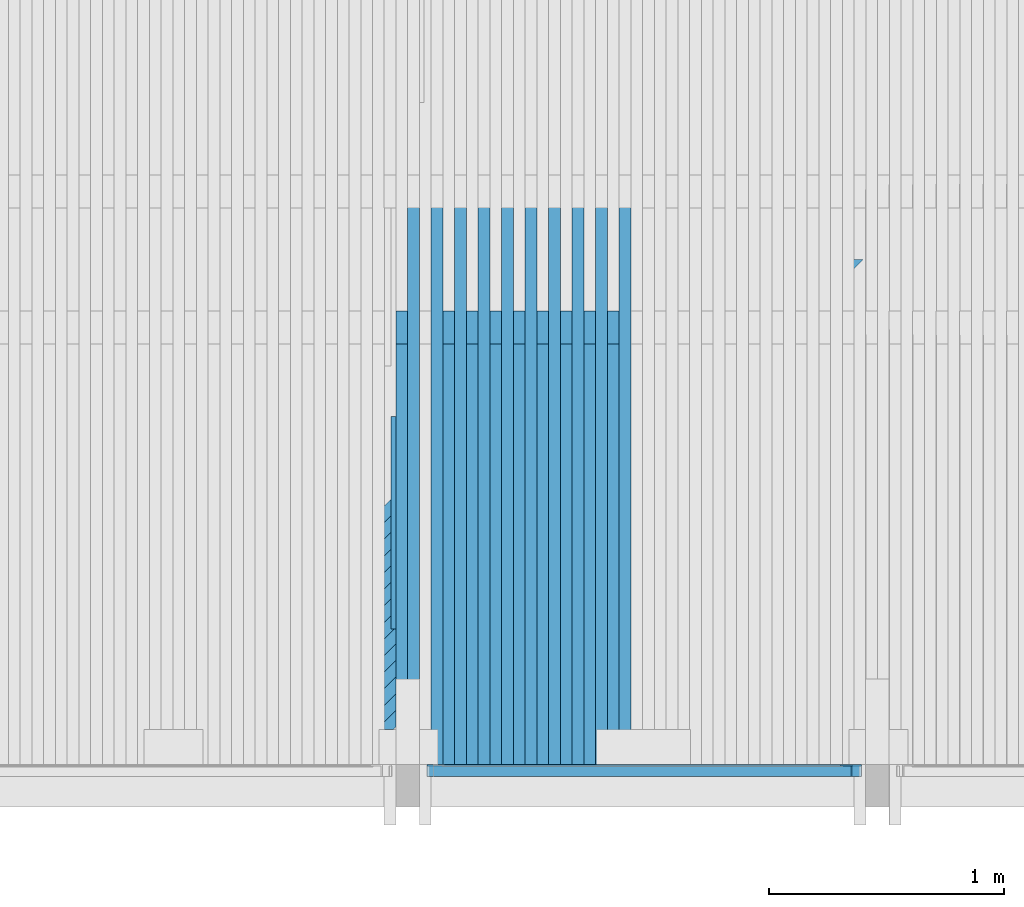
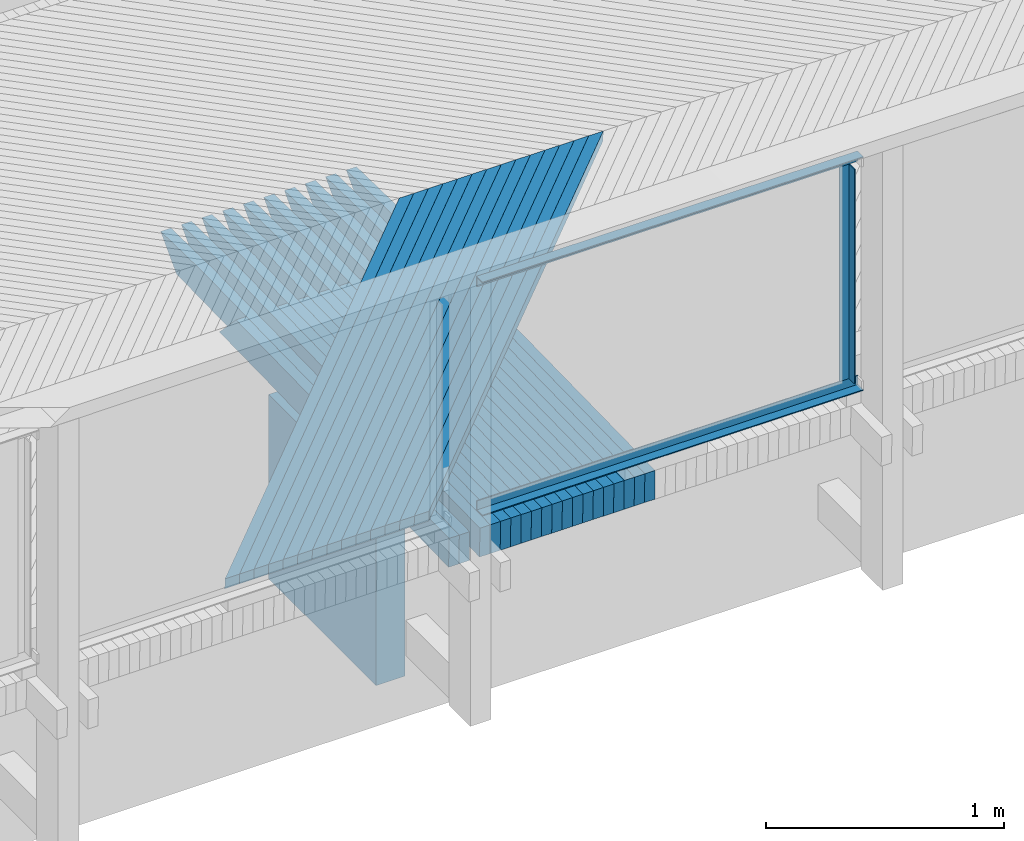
# One storey, part 30 of 65: 37 beams.
"""IFC2X3 building model written with IfcOpenShell, lengths in millimetres."""

from ifc_helpers import new_model, si_unit, frame, origin_with_axes, place, context, subcontext, project, spatial, faceted_brep, material, type_object, element, save


model = new_model("IFC2X3")

# Units and contexts
model_context = context("Model", 3, precision=1e-05, world=origin_with_axes())
body_context = subcontext(model_context, "Body", "Model", "MODEL_VIEW")
ifc_project = project(units=[si_unit("LENGTHUNIT", "METRE", prefix="MILLI"), si_unit("AREAUNIT", "SQUARE_METRE"), si_unit("VOLUMEUNIT", "CUBIC_METRE"), si_unit("MASSUNIT", "GRAM", prefix="KILO"), si_unit("TIMEUNIT", "SECOND"), si_unit("PLANEANGLEUNIT", "RADIAN"), si_unit("SOLIDANGLEUNIT", "STERADIAN"), si_unit("THERMODYNAMICTEMPERATUREUNIT", "DEGREE_CELSIUS"), si_unit("LUMINOUSINTENSITYUNIT", "LUMEN")], contexts=[model_context])

# Site, building, storey
site_placement = place(None, origin_with_axes())
site = spatial("IfcSite", under=ifc_project, at=site_placement, Name="Undefined", CompositionType="ELEMENT")
building_placement = place(site_placement, origin_with_axes())
building = spatial("IfcBuilding", under=site, at=building_placement, Name="Undefined", CompositionType="ELEMENT")
storey_placement = place(building_placement, origin_with_axes())
storey = spatial("IfcBuildingStorey", under=building, at=storey_placement, Name="Undefined", CompositionType="ELEMENT", Elevation=0.0)

# Beams
ifc_material_1 = material(Name="STEEL/S235JR")
beam_type_1 = type_object("IfcBeamType", Name="L50*5", PredefinedType="NOTDEFINED")
beam_1_placement = place(storey_placement, frame((9867.50249484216, 20190.01, 4413.27202277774), z_axis=(0.0, -1.0, 0.0), x_axis=(0.0, 0.0, -1.0)))
element("IfcBeam", 1, at=beam_1_placement, inside=storey, type_object=beam_type_1, material=ifc_material_1, Name="BEAM", ObjectType="L50*5", context=body_context, shape_type="Brep", body=[
    faceted_brep([(0.0, 25.0, -25.0), (0.0, 25.0, 25.0), (1100.00065383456, 25.0, 25.0), (1100.00065383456, 25.0, -25.0), (0.0, 20.0, 25.0), (1100.00065383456, 20.0, 25.0), (0.0, 20.0, -20.0), (1100.00065383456, 20.0, -20.0), (0.0, -25.0, -20.0), (1100.00065383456, -25.0, -20.0), (0.0, -25.0, -25.0), (1100.00065383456, -25.0, -25.0)], [[[0, 1, 2, 3]], [[1, 4, 5, 2]], [[4, 6, 7, 5]], [[6, 8, 9, 7]], [[8, 10, 11, 9]], [[10, 0, 3, 11]], [[5, 7, 9, 11, 3, 2]], [[10, 8, 6, 4, 1, 0]]]),
])
for number, where, z_axis, x_axis, name in (
    (2, (9932.03909659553, 20190.0100000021, 3288.20578105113), (0.0, -1.0, 0.0), (-0.999998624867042, 0.0, 0.00165839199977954), "BEAM"),
    (3, (8082.96221035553, 20190.0099999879, 4441.27297464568), (0.0, -1.0, 0.0), (0.999998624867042, 0.0, -0.00165839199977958), "BEAM"),
):
    element("IfcBeam", number, at=place(storey_placement, frame(where, z_axis=z_axis, x_axis=x_axis)), inside=storey, type_object=beam_type_1, material=ifc_material_1, Name=name, ObjectType="L50*5", context=body_context, shape_type="Brep", body=[
        faceted_brep([(0.0, 25.0, -25.0), (0.0, 25.0, 25.0), (1848.99650923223, 25.0, 25.0), (1848.99650923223, 25.0, -25.0), (0.0, 20.0, 25.0), (1848.99650923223, 20.0, 25.0), (0.0, 20.0, -20.0), (1848.99650923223, 20.0, -20.0), (0.0, -25.0, -20.0), (1848.99650923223, -25.0000000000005, -20.0), (0.0, -25.0, -25.0), (1848.99650923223, -25.0000000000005, -25.0)], [[[0, 1, 2, 3]], [[1, 4, 5, 2]], [[4, 6, 7, 5]], [[6, 8, 9, 7]], [[8, 10, 11, 9]], [[10, 0, 3, 11]], [[5, 7, 9, 11, 3, 2]], [[10, 8, 6, 4, 1, 0]]]),
    ])
ifc_material_2 = material(Name="TIMBER/Timber_Undefined")
beam_type_2 = type_object("IfcBeamType", Name="945*140", PredefinedType="NOTDEFINED")
beam_2_placement = place(storey_placement, frame((8000.0, 21697.5, 2542.6979002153), z_axis=(0.0, 0.0, 1.0), x_axis=(0.0, -1.0, 0.0)))
element("IfcBeam", 4, at=beam_2_placement, inside=storey, type_object=beam_type_2, material=ifc_material_2, Name="PALKKI", ObjectType="945*140", context=body_context, shape_type="Brep", body=[
    faceted_brep([(0.0, 70.0, -472.5), (0.0, 70.0, 472.5), (905.0, 70.0, 472.5), (905.0, 70.0, -472.5), (0.0, -70.0, 472.5), (905.0, -70.0, 472.5), (0.0, -70.0, -472.5), (905.0, -70.0, -472.5)], [[[0, 1, 2, 3]], [[1, 4, 5, 2]], [[4, 6, 7, 5]], [[6, 0, 3, 7]], [[5, 7, 3, 2]], [[6, 4, 1, 0]]]),
])
beam_type_3 = type_object("IfcBeamType", Name="50*50", PredefinedType="NOTDEFINED")
for number, where, z_axis, x_axis, name in (
    (5, (9903.90922166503, 22364.5001003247, 3233.11191274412), (0.707070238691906, -0.706981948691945, -0.0151063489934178), (-0.70714200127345, -0.706948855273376, -0.0131721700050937), "BEAM"),
    (6, (9833.18532878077, 22364.5001003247, 3233.33139353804), (0.707072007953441, -0.706981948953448, -0.0150232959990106), (-0.707140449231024, -0.706948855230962, -0.0132552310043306), "BEAM"),
    (7, (9762.46141060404, 22364.5001003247, 3233.54256705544), (0.707073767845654, -0.706981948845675, -0.0149402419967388), (-0.707138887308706, -0.706948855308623, -0.0133382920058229), "BEAM"),
    (8, (9691.73746811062, 22364.5001003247, 3233.7454332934), (0.707075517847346, -0.706981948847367, -0.0148571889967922), (-0.707137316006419, -0.706948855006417, -0.0134213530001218), "BEAM"),
    (9, (9621.01350227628, 22364.5001003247, 3233.93999224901), (0.707077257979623, -0.706981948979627, -0.0147741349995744), (-0.707135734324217, -0.706948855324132, -0.0135044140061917), "BEAM"),
    (10, (9550.28951407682, 22364.5001003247, 3234.12624391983), (0.707078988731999, -0.706981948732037, -0.0146910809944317), (-0.70713414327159, -0.706948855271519, -0.0135874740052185), "BEAM"),
    (11, (9479.565504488, 22364.5001003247, 3234.30418830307), (0.70708070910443, -0.706981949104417, -0.0146080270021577), (-0.70713254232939, -0.706948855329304, -0.0136705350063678), "BEAM"),
    (12, (9408.8414744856, 22364.5001003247, 3234.4738253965), (0.707082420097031, -0.706981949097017, -0.0145249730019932), (-0.707130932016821, -0.706948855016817, -0.0137535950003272), "BEAM"),
    (13, (9338.11742504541, 22364.5001003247, 3234.63515519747), (0.707084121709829, -0.706981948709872, -0.0144419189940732), (-0.707129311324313, -0.70694885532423, -0.0138366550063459), "BEAM"),
    (14, (9267.39335714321, 22364.5001003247, 3234.78817770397), (0.70708581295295, -0.706981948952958, -0.0143588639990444), (-0.707127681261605, -0.706948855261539, -0.0139197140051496), "BEAM"),
    (15, (9196.66927175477, 22364.5001003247, 3234.93289291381), (0.707087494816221, -0.70698194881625, -0.0142758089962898), (-0.707126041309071, -0.706948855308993, -0.0140027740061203), "BEAM"),
    (16, (9125.94516985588, 22364.5001003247, 3235.06930082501), (0.707089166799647, -0.706981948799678, -0.0141927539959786), (-0.707124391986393, -0.706948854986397, -0.0140858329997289), "BEAM"),
    (17, (9055.22105242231, 22364.5001003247, 3235.1974014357), (0.707090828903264, -0.706981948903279, -0.0141096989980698), (-0.707122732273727, -0.70694885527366, -0.0141688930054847), "BEAM"),
    (18, (8984.49692042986, 22364.5001003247, 3235.31719474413), (0.707092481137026, -0.706981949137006, -0.0140266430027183), (-0.707121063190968, -0.706948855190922, -0.014251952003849), "BEAM"),
):
    element("IfcBeam", number, at=place(storey_placement, frame(where, z_axis=z_axis, x_axis=x_axis)), inside=storey, type_object=beam_type_3, material=ifc_material_2, Name=name, ObjectType="50*50", context=body_context, shape_type="Brep", body=[
        faceted_brep([(24.8942457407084, 25.0000000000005, -25.0000000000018), (-25.0086637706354, 24.9999999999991, 25.0), (2804.3406783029, 25.0, 25.0000000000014), (2854.34301907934, 24.9999999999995, -25.0), (-26.4222658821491, -25.0000000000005, 25.0), (2802.92643296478, -25.0, 25.0000000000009), (23.4806436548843, -24.9999999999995, -25.0000000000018), (2852.92877373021, -25.0000000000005, -24.9999999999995)], [[[0, 1, 2, 3]], [[1, 4, 5, 2]], [[4, 6, 7, 5]], [[6, 0, 3, 7]], [[5, 7, 3, 2]], [[6, 4, 1, 0]]]),
    ])
beam_type_4 = type_object("IfcBeamType", Name="150*50", PredefinedType="NOTDEFINED")
beam_3_placement = place(storey_placement, frame((8875.35105555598, 20216.5046076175, 3092.51355357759), z_axis=(0.00137347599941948, -0.0199960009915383, 0.999799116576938), x_axis=(2.74690000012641e-05, 0.999800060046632, 0.0199959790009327)))
element("IfcBeam", 19, at=beam_3_placement, inside=storey, type_object=beam_type_4, material=ifc_material_2, Name="BEAM", ObjectType="150*50", context=body_context, shape_type="Brep", body=[
    faceted_brep([(-1.6778358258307e-07, -24.9999999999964, -74.9999999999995), (1.67790858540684e-07, -24.9999999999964, 75.0000000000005), (1.67790858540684e-07, 25.0000000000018, 74.9999999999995), (-1.6778358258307e-07, 25.0000000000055, -75.0), (1928.42646353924, -25.0, -75.0000000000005), (1789.96936433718, -25.0000000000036, 74.9999999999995), (1789.96936408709, 24.9999999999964, 75.0), (1928.42646328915, 24.9999999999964, -75.0)], [[[0, 1, 2, 3]], [[1, 0, 4, 5]], [[2, 1, 5, 6]], [[3, 2, 6, 7]], [[0, 3, 7, 4]], [[7, 6, 5, 4]]]),
])
beam_4_placement = place(storey_placement, frame((8925.37102920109, 20216.5046076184, 3092.43652922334), z_axis=(0.00153959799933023, -0.0199960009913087, 0.999798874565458), x_axis=(3.0791000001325e-05, 0.999800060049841, 0.0199959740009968)))
element("IfcBeam", 20, at=beam_4_placement, inside=storey, type_object=beam_type_4, material=ifc_material_2, Name="BEAM", ObjectType="150*50", context=body_context, shape_type="Brep", body=[
    faceted_brep([(-1.6778358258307e-07, -24.9999999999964, -74.9999999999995), (1.67790858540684e-07, -24.9999999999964, 75.0000000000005), (1.67790858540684e-07, 25.0000000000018, 74.9999999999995), (-1.6778358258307e-07, 25.0000000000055, -75.0), (2375.00494422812, 25.0000000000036, -75.0), (2375.00494447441, -24.9999999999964, -74.9999999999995), (2510.59248714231, -24.9999999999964, 60.5875430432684), (2150.42520082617, -25.0000000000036, 75.0000000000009), (2150.42515052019, 25.0000000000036, 74.9999999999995), (2510.59248715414, 25.0000000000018, 60.5875433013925)], [[[0, 1, 2, 3]], [[0, 3, 4, 5]], [[1, 0, 5, 6, 7]], [[2, 1, 7, 8]], [[4, 3, 2, 8, 9]], [[5, 4, 9, 6]], [[8, 7, 6, 9]]]),
])
beam_5_placement = place(storey_placement, frame((8775.33111583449, 20216.5046076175, 3092.65068841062), z_axis=(0.00120735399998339, -0.0199960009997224, 0.999799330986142), x_axis=(2.41470000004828e-05, 0.999800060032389, 0.0199959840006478)))
element("IfcBeam", 21, at=beam_5_placement, inside=storey, type_object=beam_type_4, material=ifc_material_2, Name="BEAM", ObjectType="150*50", context=body_context, shape_type="Brep", body=[
    faceted_brep([(-1.6778358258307e-07, -24.9999999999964, -74.9999999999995), (1.67790858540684e-07, -24.9999999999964, 75.0000000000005), (1.67790858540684e-07, 25.0000000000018, 74.9999999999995), (-1.6778358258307e-07, 25.0000000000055, -75.0), (1928.42646353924, -25.0, -75.0000000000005), (1789.96936433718, -25.0000000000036, 74.9999999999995), (1789.96936408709, 24.9999999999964, 75.0), (1928.42646328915, 24.9999999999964, -75.0)], [[[0, 1, 2, 3]], [[1, 0, 4, 5]], [[2, 1, 5, 6]], [[3, 2, 6, 7]], [[0, 3, 7, 4]], [[7, 6, 5, 4]]]),
])
beam_6_placement = place(storey_placement, frame((8825.35110158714, 20216.5046076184, 3092.5819751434), z_axis=(0.00137347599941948, -0.0199960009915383, 0.999799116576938), x_axis=(2.74690000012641e-05, 0.999800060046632, 0.0199959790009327)))
element("IfcBeam", 22, at=beam_6_placement, inside=storey, type_object=beam_type_4, material=ifc_material_2, Name="BEAM", ObjectType="150*50", context=body_context, shape_type="Brep", body=[
    faceted_brep([(-1.6778358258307e-07, -24.9999999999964, -74.9999999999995), (1.67790858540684e-07, -24.9999999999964, 75.0000000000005), (1.67790858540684e-07, 25.0000000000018, 74.9999999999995), (-1.6778358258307e-07, 25.0000000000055, -75.0), (2375.00494422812, 25.0000000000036, -75.0), (2375.00494447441, -24.9999999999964, -74.9999999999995), (2510.59248714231, -24.9999999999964, 60.5875430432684), (2150.42514405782, -24.9999999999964, 75.0000000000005), (2150.42515052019, 25.0000000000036, 74.9999999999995), (2510.59248715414, 25.0000000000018, 60.5875433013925)], [[[0, 1, 2, 3]], [[0, 3, 4, 5]], [[1, 0, 5, 6, 7]], [[2, 1, 7, 8]], [[4, 3, 2, 8, 9]], [[5, 4, 9, 6]], [[6, 9, 8, 7]]]),
])
beam_7_placement = place(storey_placement, frame((8675.31115470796, 20216.5046076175, 3092.77120439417), z_axis=(0.00104123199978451, -0.0199960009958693, 0.99979951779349), x_axis=(2.08240000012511e-05, 0.999800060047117, 0.0199959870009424)))
element("IfcBeam", 23, at=beam_7_placement, inside=storey, type_object=beam_type_4, material=ifc_material_2, Name="BEAM", ObjectType="150*50", context=body_context, shape_type="Brep", body=[
    faceted_brep([(-1.6778358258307e-07, -24.9999999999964, -74.9999999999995), (1.67790858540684e-07, -24.9999999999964, 75.0000000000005), (1.67790858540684e-07, 25.0000000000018, 74.9999999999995), (-1.6778358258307e-07, 25.0000000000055, -75.0), (1928.42646353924, -25.0, -75.0000000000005), (1789.96936433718, -25.0000000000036, 74.9999999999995), (1789.96936408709, 24.9999999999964, 75.0), (1928.42646328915, 24.9999999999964, -75.0)], [[[0, 1, 2, 3]], [[1, 0, 4, 5]], [[2, 1, 5, 6]], [[3, 2, 6, 7]], [[0, 3, 7, 4]], [[7, 6, 5, 4]]]),
])
beam_8_placement = place(storey_placement, frame((8725.33115118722, 20216.5046076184, 3092.71080221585), z_axis=(0.00120735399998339, -0.0199960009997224, 0.999799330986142), x_axis=(2.41470000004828e-05, 0.999800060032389, 0.0199959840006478)))
element("IfcBeam", 24, at=beam_8_placement, inside=storey, type_object=beam_type_4, material=ifc_material_2, Name="BEAM", ObjectType="150*50", context=body_context, shape_type="Brep", body=[
    faceted_brep([(-1.6778358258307e-07, -24.9999999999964, -74.9999999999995), (1.67790858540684e-07, -24.9999999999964, 75.0000000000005), (1.67790858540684e-07, 25.0000000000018, 74.9999999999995), (-1.6778358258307e-07, 25.0000000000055, -75.0), (2375.00494422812, 25.0000000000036, -75.0), (2375.00494447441, -24.9999999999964, -74.9999999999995), (2510.59248714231, -24.9999999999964, 60.5875430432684), (2150.42520082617, -25.0000000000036, 75.0000000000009), (2150.42515052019, 25.0000000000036, 74.9999999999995), (2510.59248715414, 25.0000000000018, 60.5875433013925)], [[[0, 1, 2, 3]], [[0, 3, 4, 5]], [[1, 0, 5, 6, 7]], [[2, 1, 7, 8]], [[4, 3, 2, 8, 9]], [[5, 4, 9, 6]], [[8, 7, 6, 9]]]),
])
beam_9_placement = place(storey_placement, frame((8575.29117493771, 20216.5046076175, 3092.8751015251), z_axis=(0.00087510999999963, -0.0199960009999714, 0.999799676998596), x_axis=(1.75020000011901e-05, 0.999800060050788, 0.0199959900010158)))
element("IfcBeam", 25, at=beam_9_placement, inside=storey, type_object=beam_type_4, material=ifc_material_2, Name="BEAM", ObjectType="150*50", context=body_context, shape_type="Brep", body=[
    faceted_brep([(-1.6778358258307e-07, -24.9999999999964, -74.9999999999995), (1.67790858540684e-07, -24.9999999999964, 75.0000000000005), (1.67790858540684e-07, 25.0000000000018, 74.9999999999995), (-1.6778358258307e-07, 25.0000000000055, -75.0), (1928.42646353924, -25.0, -75.0000000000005), (1789.96936433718, -25.0000000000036, 74.9999999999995), (1789.96936408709, 24.9999999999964, 75.0), (1928.42646328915, 24.9999999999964, -75.0)], [[[0, 1, 2, 3]], [[1, 0, 4, 5]], [[2, 1, 5, 6]], [[3, 2, 6, 7]], [[0, 3, 7, 4]], [[7, 6, 5, 4]]]),
])
beam_10_placement = place(storey_placement, frame((8625.31118076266, 20216.5046076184, 3092.82301043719), z_axis=(0.00104123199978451, -0.0199960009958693, 0.99979951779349), x_axis=(2.08240000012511e-05, 0.999800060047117, 0.0199959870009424)))
element("IfcBeam", 26, at=beam_10_placement, inside=storey, type_object=beam_type_4, material=ifc_material_2, Name="BEAM", ObjectType="150*50", context=body_context, shape_type="Brep", body=[
    faceted_brep([(-1.6778358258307e-07, -24.9999999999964, -74.9999999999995), (1.67790858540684e-07, -24.9999999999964, 75.0000000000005), (1.67790858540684e-07, 25.0000000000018, 74.9999999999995), (-1.6778358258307e-07, 25.0000000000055, -75.0), (2375.00494422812, 25.0000000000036, -75.0), (2375.00494447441, -24.9999999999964, -74.9999999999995), (2510.59248714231, -24.9999999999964, 60.5875430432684), (2150.42514405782, -24.9999999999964, 75.0000000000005), (2150.42515052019, 25.0000000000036, 74.9999999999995), (2510.59248715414, 25.0000000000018, 60.5875433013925)], [[[0, 1, 2, 3]], [[0, 3, 4, 5]], [[1, 0, 5, 6, 7]], [[2, 1, 7, 8]], [[4, 3, 2, 8, 9]], [[5, 4, 9, 6]], [[6, 9, 8, 7]]]),
])
beam_11_placement = place(storey_placement, frame((8475.27117928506, 20216.5046076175, 3092.96237980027), z_axis=(0.000708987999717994, -0.019996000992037, 0.999799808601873), x_axis=(1.41790000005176e-05, 0.999800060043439, 0.0199959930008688)))
element("IfcBeam", 27, at=beam_11_placement, inside=storey, type_object=beam_type_4, material=ifc_material_2, Name="BEAM", ObjectType="150*50", context=body_context, shape_type="Brep", body=[
    faceted_brep([(-1.6778358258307e-07, -24.9999999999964, -74.9999999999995), (1.67790858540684e-07, -24.9999999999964, 75.0000000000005), (1.67790858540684e-07, 25.0000000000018, 74.9999999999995), (-1.6778358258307e-07, 25.0000000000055, -75.0), (1928.42646353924, -25.0, -75.0000000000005), (1789.96936433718, -25.0000000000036, 74.9999999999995), (1789.96936408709, 24.9999999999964, 75.0), (1928.42646328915, 24.9999999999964, -75.0)], [[[0, 1, 2, 3]], [[1, 0, 4, 5]], [[2, 1, 5, 6]], [[3, 2, 6, 7]], [[0, 3, 7, 4]], [[7, 6, 5, 4]]]),
])
beam_12_placement = place(storey_placement, frame((8525.29119307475, 20216.5046076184, 3092.91859980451), z_axis=(0.00087510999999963, -0.0199960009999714, 0.999799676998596), x_axis=(1.75020000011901e-05, 0.999800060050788, 0.0199959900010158)))
element("IfcBeam", 28, at=beam_12_placement, inside=storey, type_object=beam_type_4, material=ifc_material_2, Name="BEAM", ObjectType="150*50", context=body_context, shape_type="Brep", body=[
    faceted_brep([(-1.6778358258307e-07, -24.9999999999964, -74.9999999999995), (1.67790858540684e-07, -24.9999999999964, 75.0000000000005), (1.67790858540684e-07, 25.0000000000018, 74.9999999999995), (-1.6778358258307e-07, 25.0000000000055, -75.0), (2375.00494422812, 25.0000000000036, -75.0), (2375.00494447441, -24.9999999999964, -74.9999999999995), (2510.59248714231, -24.9999999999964, 60.5875430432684), (2150.42520082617, -25.0000000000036, 75.0000000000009), (2150.42515052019, 25.0000000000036, 74.9999999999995), (2510.59248715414, 25.0000000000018, 60.5875433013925)], [[[0, 1, 2, 3]], [[0, 3, 4, 5]], [[1, 0, 5, 6, 7]], [[2, 1, 7, 8]], [[4, 3, 2, 8, 9]], [[5, 4, 9, 6]], [[8, 7, 6, 9]]]),
])
beam_13_placement = place(storey_placement, frame((8375.25117051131, 20216.5046076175, 3093.03303921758), z_axis=(0.000542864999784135, -0.019996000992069, 0.999799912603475), x_axis=(1.08570000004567e-05, 0.999800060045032, 0.0199959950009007)))
element("IfcBeam", 29, at=beam_13_placement, inside=storey, type_object=beam_type_4, material=ifc_material_2, Name="BEAM", ObjectType="150*50", context=body_context, shape_type="Brep", body=[
    faceted_brep([(-1.6778358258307e-07, -24.9999999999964, -74.9999999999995), (1.67790858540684e-07, -24.9999999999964, 75.0000000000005), (1.67790858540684e-07, 25.0000000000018, 74.9999999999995), (-1.6778358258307e-07, 25.0000000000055, -75.0), (1928.42646353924, -25.0, -75.0000000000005), (1789.96936433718, -25.0000000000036, 74.9999999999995), (1789.96936408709, 24.9999999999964, 75.0), (1928.42646328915, 24.9999999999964, -75.0)], [[[0, 1, 2, 3]], [[1, 0, 4, 5]], [[2, 1, 5, 6]], [[3, 2, 6, 7]], [[0, 3, 7, 4]], [[7, 6, 5, 4]]]),
])
beam_14_placement = place(storey_placement, frame((8425.27119088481, 20216.5046076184, 3092.99757031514), z_axis=(0.000708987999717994, -0.019996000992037, 0.999799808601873), x_axis=(1.41790000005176e-05, 0.999800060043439, 0.0199959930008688)))
element("IfcBeam", 30, at=beam_14_placement, inside=storey, type_object=beam_type_4, material=ifc_material_2, Name="BEAM", ObjectType="150*50", context=body_context, shape_type="Brep", body=[
    faceted_brep([(-1.6778358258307e-07, -24.9999999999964, -74.9999999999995), (1.67790858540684e-07, -24.9999999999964, 75.0000000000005), (1.67790858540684e-07, 25.0000000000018, 74.9999999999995), (-1.6778358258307e-07, 25.0000000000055, -75.0), (2375.00494422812, 25.0000000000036, -75.0), (2375.00494447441, -24.9999999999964, -74.9999999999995), (2510.59248714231, -24.9999999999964, 60.5875430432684), (2150.42514405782, -24.9999999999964, 75.0000000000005), (2150.42515052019, 25.0000000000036, 74.9999999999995), (2510.59248715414, 25.0000000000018, 60.5875433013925)], [[[0, 1, 2, 3]], [[0, 3, 4, 5]], [[1, 0, 5, 6, 7]], [[2, 1, 7, 8]], [[4, 3, 2, 8, 9]], [[5, 4, 9, 6]], [[6, 9, 8, 7]]]),
])
beam_15_placement = place(storey_placement, frame((8275.23115137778, 20216.5046076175, 3093.08707977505), z_axis=(0.000376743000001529, -0.0199960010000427, 0.999799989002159), x_axis=(7.53400000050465e-06, 0.999800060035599, 0.0199959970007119)))
element("IfcBeam", 31, at=beam_15_placement, inside=storey, type_object=beam_type_4, material=ifc_material_2, Name="BEAM", ObjectType="150*50", context=body_context, shape_type="Brep", body=[
    faceted_brep([(-1.6778358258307e-07, -24.9999999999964, -74.9999999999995), (1.67790858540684e-07, -24.9999999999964, 75.0000000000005), (1.67790858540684e-07, 25.0000000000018, 74.9999999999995), (-1.6778358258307e-07, 25.0000000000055, -75.0), (1928.42646353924, -25.0, -75.0000000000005), (1789.96936433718, -25.0000000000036, 74.9999999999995), (1789.96936408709, 24.9999999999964, 75.0), (1928.42646328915, 24.9999999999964, -75.0)], [[[0, 1, 2, 3]], [[1, 0, 4, 5]], [[2, 1, 5, 6]], [[3, 2, 6, 7]], [[0, 3, 7, 4]], [[7, 6, 5, 4]]]),
])
beam_16_placement = place(storey_placement, frame((8325.25117695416, 20216.5046076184, 3093.05992196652), z_axis=(0.000542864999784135, -0.019996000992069, 0.999799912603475), x_axis=(1.08570000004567e-05, 0.999800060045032, 0.0199959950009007)))
element("IfcBeam", 32, at=beam_16_placement, inside=storey, type_object=beam_type_4, material=ifc_material_2, Name="BEAM", ObjectType="150*50", context=body_context, shape_type="Brep", body=[
    faceted_brep([(-1.6778358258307e-07, -24.9999999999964, -74.9999999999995), (1.67790858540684e-07, -24.9999999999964, 75.0000000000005), (1.67790858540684e-07, 25.0000000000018, 74.9999999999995), (-1.6778358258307e-07, 25.0000000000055, -75.0), (2375.00494422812, 25.0000000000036, -75.0), (2375.00494447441, -24.9999999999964, -74.9999999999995), (2510.59248714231, -24.9999999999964, 60.5875430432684), (2150.42514405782, -24.9999999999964, 75.0000000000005), (2150.42515052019, 25.0000000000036, 74.9999999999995), (2510.59248715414, 25.0000000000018, 60.5875433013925)], [[[0, 1, 2, 3]], [[0, 3, 4, 5]], [[1, 0, 5, 6, 7]], [[2, 1, 7, 8]], [[4, 3, 2, 8, 9]], [[5, 4, 9, 6]], [[6, 9, 8, 7]]]),
])
beam_17_placement = place(storey_placement, frame((8175.21112464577, 20216.5046076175, 3093.12450147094), z_axis=(0.000210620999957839, -0.0199960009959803, 0.999800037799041), x_axis=(4.21200000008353e-06, 0.999800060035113, 0.0199959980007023)))
element("IfcBeam", 33, at=beam_17_placement, inside=storey, type_object=beam_type_4, material=ifc_material_2, Name="BEAM", ObjectType="150*50", context=body_context, shape_type="Brep", body=[
    faceted_brep([(-1.6778358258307e-07, -24.9999999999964, -74.9999999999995), (1.67790858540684e-07, -24.9999999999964, 75.0000000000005), (1.67790858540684e-07, 25.0000000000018, 74.9999999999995), (-1.6778358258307e-07, 25.0000000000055, -75.0), (1928.42646353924, -25.0, -75.0000000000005), (1789.96936433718, -25.0000000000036, 74.9999999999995), (1789.96936408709, 24.9999999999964, 75.0), (1928.42646328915, 24.9999999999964, -75.0)], [[[0, 1, 2, 3]], [[1, 0, 4, 5]], [[2, 1, 5, 6]], [[3, 2, 6, 7]], [[0, 3, 7, 4]], [[7, 6, 5, 4]]]),
])
for number, where, z_axis, x_axis, name in (
    (34, (8225.23115404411, 20216.5046076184, 3093.10565475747), (0.000376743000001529, -0.0199960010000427, 0.999799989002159), (7.53400000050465e-06, 0.999800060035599, 0.0199959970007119), "BEAM"),
    (35, (8125.21112491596, 20216.5046076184, 3093.13476868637), (0.000210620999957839, -0.0199960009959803, 0.999800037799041), (4.21200000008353e-06, 0.999800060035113, 0.0199959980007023), "BEAM"),
):
    element("IfcBeam", number, at=place(storey_placement, frame(where, z_axis=z_axis, x_axis=x_axis)), inside=storey, type_object=beam_type_4, material=ifc_material_2, Name=name, ObjectType="150*50", context=body_context, shape_type="Brep", body=[
        faceted_brep([(-1.6778358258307e-07, -24.9999999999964, -74.9999999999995), (1.67790858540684e-07, -24.9999999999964, 75.0000000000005), (1.67790858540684e-07, 25.0000000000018, 74.9999999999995), (-1.6778358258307e-07, 25.0000000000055, -75.0), (2375.00494422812, 25.0000000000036, -75.0), (2375.00494447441, -24.9999999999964, -74.9999999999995), (2510.59248714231, -24.9999999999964, 60.5875430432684), (2150.42514405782, -24.9999999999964, 75.0000000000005), (2150.42515052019, 25.0000000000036, 74.9999999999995), (2510.59248715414, 25.0000000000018, 60.5875433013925)], [[[0, 1, 2, 3]], [[0, 3, 4, 5]], [[1, 0, 5, 6, 7]], [[2, 1, 7, 8]], [[4, 3, 2, 8, 9]], [[5, 4, 9, 6]], [[6, 9, 8, 7]]]),
    ])
beam_18_placement = place(storey_placement, frame((7975.1710594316, 20216.5046076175, 3093.14948827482), z_axis=(-0.000121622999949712, -0.0199960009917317, 0.999800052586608), x_axis=(-2.43299999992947e-06, 0.999800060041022, 0.0199959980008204)))
element("IfcBeam", 36, at=beam_18_placement, inside=storey, type_object=beam_type_4, material=ifc_material_2, Name="BEAM", ObjectType="150*50", context=body_context, shape_type="Brep", body=[
    faceted_brep([(-1.6778358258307e-07, -24.9999999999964, -74.9999999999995), (1.67790858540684e-07, -24.9999999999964, 75.0000000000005), (1.67790858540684e-07, 25.0000000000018, 74.9999999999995), (-1.6778358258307e-07, 25.0000000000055, -75.0), (1928.42646353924, -25.0, -75.0000000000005), (1789.96936433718, -25.0000000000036, 74.9999999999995), (1789.96936408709, 24.9999999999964, 75.0), (1928.42646328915, 24.9999999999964, -75.0)], [[[0, 1, 2, 3]], [[1, 0, 4, 5]], [[2, 1, 5, 6]], [[3, 2, 6, 7]], [[0, 3, 7, 4]], [[7, 6, 5, 4]]]),
])
beam_19_placement = place(storey_placement, frame((8025.19109233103, 20216.5046076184, 3093.14726375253), z_axis=(4.44979999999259e-05, -0.0199960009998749, 0.999800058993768), x_axis=(8.90000000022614e-07, 0.999800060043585, 0.0199959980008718)))
element("IfcBeam", 37, at=beam_19_placement, inside=storey, type_object=beam_type_4, material=ifc_material_2, Name="BEAM", ObjectType="150*50", context=body_context, shape_type="Brep", body=[
    faceted_brep([(-1.6778358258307e-07, -24.9999999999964, -74.9999999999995), (1.67790858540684e-07, -24.9999999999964, 75.0000000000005), (1.67790858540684e-07, 25.0000000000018, 74.9999999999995), (-1.6778358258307e-07, 25.0000000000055, -75.0), (2375.00494422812, 25.0000000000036, -75.0), (2375.00494447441, -24.9999999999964, -74.9999999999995), (2510.59248714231, -24.9999999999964, 60.5875430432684), (2150.42514405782, -24.9999999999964, 75.0000000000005), (2150.42515052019, 25.0000000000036, 74.9999999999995), (2510.59248715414, 25.0000000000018, 60.5875433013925)], [[[0, 1, 2, 3]], [[0, 3, 4, 5]], [[1, 0, 5, 6, 7]], [[2, 1, 7, 8]], [[4, 3, 2, 8, 9]], [[5, 4, 9, 6]], [[6, 9, 8, 7]]]),
])

save(model, "model.ifc")
